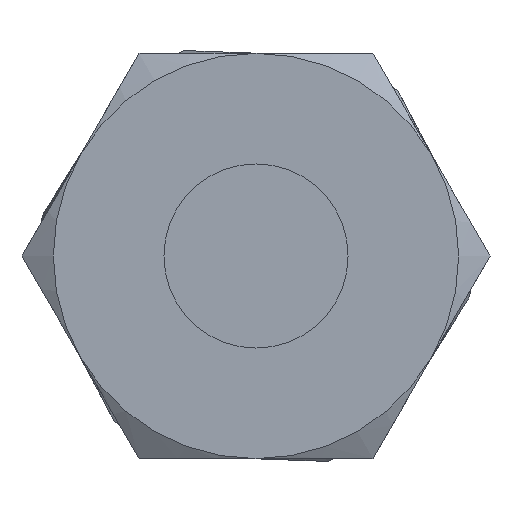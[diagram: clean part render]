
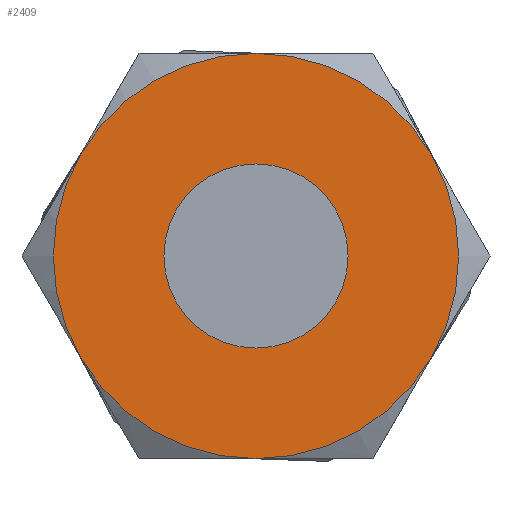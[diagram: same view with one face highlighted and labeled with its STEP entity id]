
A CAD part, front view. The second image highlights one B-rep face of the part: STEP entity #2409.
In plain terms, the highlighted planar face has unit normal (0, -1, 0).
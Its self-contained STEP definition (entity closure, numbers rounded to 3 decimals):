
#53 = CARTESIAN_POINT ( 'NONE',  ( 0., 0., 9.316 ) ) ;
#85 = CIRCLE ( 'NONE', #2196, 20.5 ) ;
#180 = ORIENTED_EDGE ( 'NONE', *, *, #755, .F. ) ;
#207 = DIRECTION ( 'NONE',  ( 0., 0., -1. ) ) ;
#218 = DIRECTION ( 'NONE',  ( 0., 1., 0. ) ) ;
#223 = ORIENTED_EDGE ( 'NONE', *, *, #2998, .F. ) ;
#279 = DIRECTION ( 'NONE',  ( 0., -1., 0. ) ) ;
#320 = AXIS2_PLACEMENT_3D ( 'NONE', #1707, #218, #207 ) ;
#342 = AXIS2_PLACEMENT_3D ( 'NONE', #452, #2558, #972 ) ;
#352 = DIRECTION ( 'NONE',  ( 0., 0., -1. ) ) ;
#383 = CARTESIAN_POINT ( 'NONE',  ( 35.507, 0., 20.5 ) ) ;
#441 = VERTEX_POINT ( 'NONE', #53 ) ;
#452 = CARTESIAN_POINT ( 'NONE',  ( 0., 0., 0. ) ) ;
#513 = EDGE_CURVE ( 'NONE', #1451, #3085, #1834, .T. ) ;
#515 = DIRECTION ( 'NONE',  ( 0., 1., 0. ) ) ;
#537 = ORIENTED_EDGE ( 'NONE', *, *, #1641, .F. ) ;
#577 = DIRECTION ( 'NONE',  ( 0., 0., -1. ) ) ;
#607 = AXIS2_PLACEMENT_3D ( 'NONE', #2707, #1393, #352 ) ;
#704 = CARTESIAN_POINT ( 'NONE',  ( 17.754, 0., -10.25 ) ) ;
#755 = EDGE_CURVE ( 'NONE', #3123, #1495, #2871, .T. ) ;
#875 = DIRECTION ( 'NONE',  ( 0., 0., -1. ) ) ;
#961 = CIRCLE ( 'NONE', #1828, 20.5 ) ;
#972 = DIRECTION ( 'NONE',  ( 0., 0., -1. ) ) ;
#1036 = EDGE_CURVE ( 'NONE', #2969, #441, #1944, .T. ) ;
#1045 = CARTESIAN_POINT ( 'NONE',  ( 0., 0., 0. ) ) ;
#1071 = AXIS2_PLACEMENT_3D ( 'NONE', #1137, #3260, #2730 ) ;
#1122 = AXIS2_PLACEMENT_3D ( 'NONE', #383, #1443, #875 ) ;
#1134 = CIRCLE ( 'NONE', #342, 20.5 ) ;
#1137 = CARTESIAN_POINT ( 'NONE',  ( 0., 0., 0. ) ) ;
#1183 = CARTESIAN_POINT ( 'NONE',  ( 0., 0., -9.315 ) ) ;
#1260 = CARTESIAN_POINT ( 'NONE',  ( 0., 0., 20.5 ) ) ;
#1338 = AXIS2_PLACEMENT_3D ( 'NONE', #3156, #279, #2110 ) ;
#1371 = ORIENTED_EDGE ( 'NONE', *, *, #1036, .F. ) ;
#1393 = DIRECTION ( 'NONE',  ( 0., -1., 0. ) ) ;
#1411 = VERTEX_POINT ( 'NONE', #2024 ) ;
#1416 = EDGE_CURVE ( 'NONE', #3085, #2927, #1134, .T. ) ;
#1430 = DIRECTION ( 'NONE',  ( 0., 1., 0. ) ) ;
#1443 = DIRECTION ( 'NONE',  ( 0., -1., 0. ) ) ;
#1451 = VERTEX_POINT ( 'NONE', #2841 ) ;
#1454 = CARTESIAN_POINT ( 'NONE',  ( 0., 0., -20.5 ) ) ;
#1490 = EDGE_LOOP ( 'NONE', ( #1371, #537 ) ) ;
#1495 = VERTEX_POINT ( 'NONE', #1260 ) ;
#1641 = EDGE_CURVE ( 'NONE', #441, #2969, #1942, .T. ) ;
#1704 = CARTESIAN_POINT ( 'NONE',  ( 0., 0., 0. ) ) ;
#1707 = CARTESIAN_POINT ( 'NONE',  ( 0., 0., 0. ) ) ;
#1739 = FACE_BOUND ( 'NONE', #1490, .T. ) ;
#1826 = CIRCLE ( 'NONE', #320, 20.5 ) ;
#1828 = AXIS2_PLACEMENT_3D ( 'NONE', #1704, #515, #577 ) ;
#1834 = CIRCLE ( 'NONE', #1071, 20.5 ) ;
#1906 = ORIENTED_EDGE ( 'NONE', *, *, #1416, .F. ) ;
#1937 = PLANE ( 'NONE',  #1122 ) ;
#1942 = CIRCLE ( 'NONE', #1338, 9.315 ) ;
#1944 = CIRCLE ( 'NONE', #607, 9.315 ) ;
#1953 = ORIENTED_EDGE ( 'NONE', *, *, #513, .F. ) ;
#1998 = ORIENTED_EDGE ( 'NONE', *, *, #3042, .F. ) ;
#2024 = CARTESIAN_POINT ( 'NONE',  ( -17.754, 0., -10.25 ) ) ;
#2094 = ORIENTED_EDGE ( 'NONE', *, *, #2183, .F. ) ;
#2110 = DIRECTION ( 'NONE',  ( 0., 0., -1. ) ) ;
#2183 = EDGE_CURVE ( 'NONE', #1411, #3123, #961, .T. ) ;
#2196 = AXIS2_PLACEMENT_3D ( 'NONE', #3256, #1430, #3267 ) ;
#2302 = AXIS2_PLACEMENT_3D ( 'NONE', #1045, #2665, #2889 ) ;
#2409 = ADVANCED_FACE ( 'NONE', ( #2952, #1739 ), #1937, .T. ) ;
#2415 = EDGE_LOOP ( 'NONE', ( #1998, #1906, #1953, #223, #180, #2094 ) ) ;
#2558 = DIRECTION ( 'NONE',  ( 0., 1., 0. ) ) ;
#2665 = DIRECTION ( 'NONE',  ( 0., 1., 0. ) ) ;
#2707 = CARTESIAN_POINT ( 'NONE',  ( 0., 0., 0. ) ) ;
#2730 = DIRECTION ( 'NONE',  ( 0., 0., -1. ) ) ;
#2841 = CARTESIAN_POINT ( 'NONE',  ( 17.754, 0., 10.25 ) ) ;
#2871 = CIRCLE ( 'NONE', #2302, 20.5 ) ;
#2889 = DIRECTION ( 'NONE',  ( 0., 0., -1. ) ) ;
#2927 = VERTEX_POINT ( 'NONE', #1454 ) ;
#2952 = FACE_OUTER_BOUND ( 'NONE', #2415, .T. ) ;
#2969 = VERTEX_POINT ( 'NONE', #1183 ) ;
#2998 = EDGE_CURVE ( 'NONE', #1495, #1451, #85, .T. ) ;
#3042 = EDGE_CURVE ( 'NONE', #2927, #1411, #1826, .T. ) ;
#3085 = VERTEX_POINT ( 'NONE', #704 ) ;
#3123 = VERTEX_POINT ( 'NONE', #3308 ) ;
#3156 = CARTESIAN_POINT ( 'NONE',  ( 0., 0., 0. ) ) ;
#3256 = CARTESIAN_POINT ( 'NONE',  ( 0., 0., 0. ) ) ;
#3260 = DIRECTION ( 'NONE',  ( 0., 1., 0. ) ) ;
#3267 = DIRECTION ( 'NONE',  ( 0., 0., 1. ) ) ;
#3308 = CARTESIAN_POINT ( 'NONE',  ( -17.754, 0., 10.25 ) ) ;
